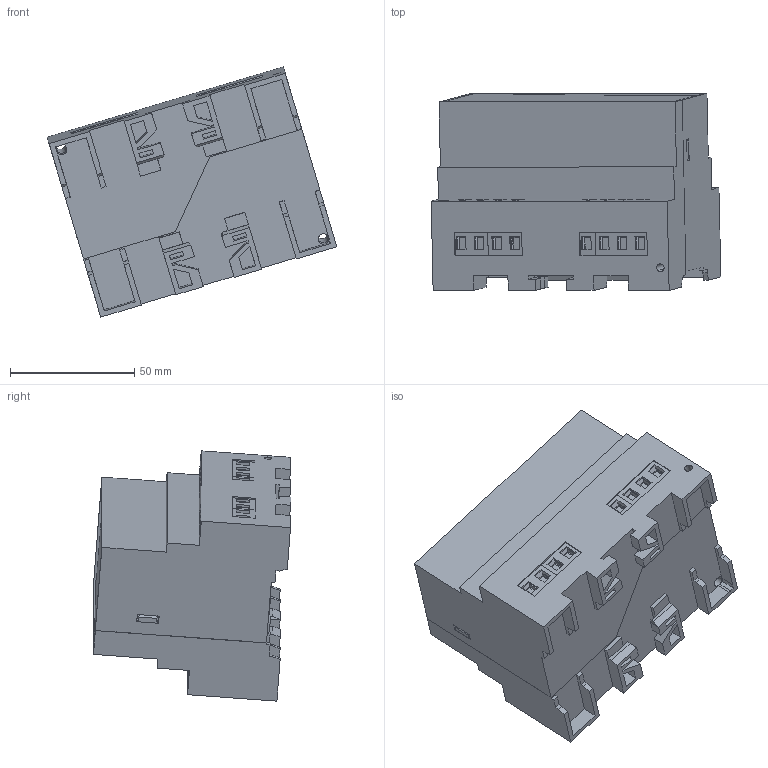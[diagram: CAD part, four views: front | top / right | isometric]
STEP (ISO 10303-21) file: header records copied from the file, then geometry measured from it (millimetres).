
FILE_DESCRIPTION(/* description */ (''),/* implementation_level */ '2;1');
FILE_NAME(/* name */ 'X:\Digidirect\CAD\Importierte Komponenten\107TD47\107TD47.stp',/* time_stamp */ '2013-10-11T06:42:53+02:00',/* author */ ('m.jost'),/* organization */ (''),/* preprocessor_version */ 'ST-DEVELOPER v15.2',/* originating_system */ 'Autodesk Inventor 2014',/* authorisation */ '');
FILE_SCHEMA (('CONFIG_CONTROL_DESIGN'));
Length unit declared in the file: millimetre
Products named in the file (2): 107TD47_Substitute_1; 107TD47
Bounding box: 116.43 x 79.23 x 100.62 mm (x, y, z)
Surface area: 60528.4 mm2 (no closed solid volume)
Topology: 0 solids, 64 shells, 504 faces, 1931 edges, 1452 vertices
Faces by surface type: plane 456, cylinder 48
Full cylindrical faces by diameter (mm): 1.7 x1, 3.1 x2, 4.3 x2, 5.1 x2, 5.5 x16
Entity records: 20428 total; most frequent: CARTESIAN_POINT 3847, DIRECTION 3163, ORIENTED_EDGE 2929, EDGE_CURVE 1895, LINE 1637, VECTOR 1637, VERTEX_POINT 1441, AXIS2_PLACEMENT_3D 763
